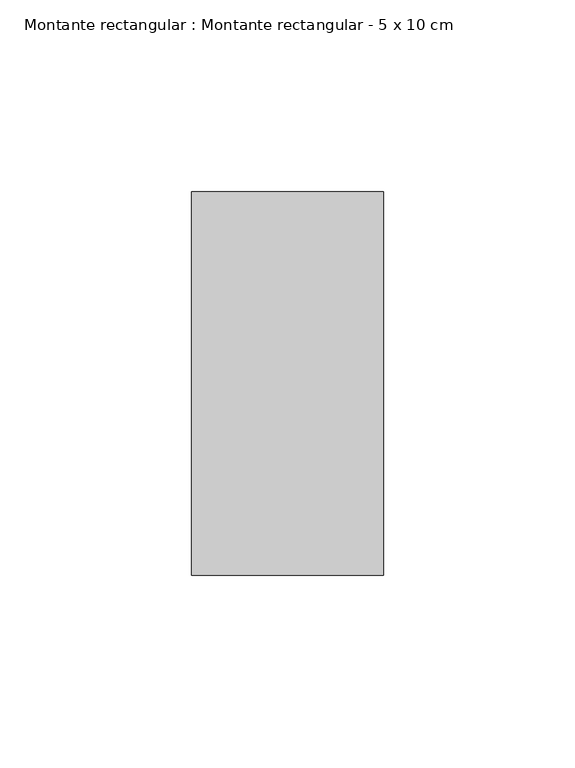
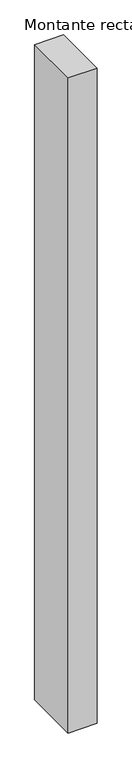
"""IFC4 building model written with IfcOpenShell, lengths in millimetres: member geometry, Montante rectangular : Montante rectangular - 5 x 10 cm."""

import ifcopenshell
import ifcopenshell.guid

model = None  # the IFC model being written
_history = None  # IfcOwnerHistory: only IFC2X3 demands one
_inside = {}  # id of a spatial element -> (the spatial element, [elements in it])
_under = {}  # id of a project, library or spatial element -> (it, [spatial elements below it])
_declared = {}  # id of a project -> (the project, [libraries it declares])
_typed = {}  # id of a type object -> (the type object, [elements of that type])
_made_of = {}  # id of a material, layer set ... -> (it, [elements and type objects made of it])


def new_model(schema):
    """Start an empty IFC model of exactly this schema.

    Asked for "IFC4X3", IfcOpenShell would pick the latest addendum, in which some entities
    have other attributes; the version numbers below select the first issue.
    IFC2X3 requires an IfcOwnerHistory on every rooted entity: one is made here for all.
    """
    global model, _history
    if schema == "IFC4X3":
        model = ifcopenshell.file(schema_version=(4, 3, 0, 0))
    else:
        model = ifcopenshell.file(schema=schema)
    _inside.clear()
    _under.clear()
    _declared.clear()
    _typed.clear()
    _made_of.clear()
    _history = None
    if model.schema == "IFC2X3":
        org = make("IfcOrganization", Name="unknown")
        user = make(
            "IfcPersonAndOrganization",
            ThePerson=make("IfcPerson", FamilyName="unknown"),
            TheOrganization=org,
        )
        app = make(
            "IfcApplication",
            ApplicationDeveloper=org,
            Version="unknown",
            ApplicationFullName="unknown",
            ApplicationIdentifier="unknown",
        )
        _history = make(
            "IfcOwnerHistory",
            OwningUser=user,
            OwningApplication=app,
            ChangeAction="ADDED",
            CreationDate=0,
        )
    return model


def make(cls, **values):
    """One entity of the class cls with the attributes given. An attribute that is None is left unset."""
    return model.create_entity(
        cls, **{name: value for name, value in values.items() if value is not None}
    )


def rooted(cls, **values):
    """An entity with a GlobalId (a new one), such as an element, a storey or a relation."""
    return make(cls, GlobalId=ifcopenshell.guid.new(), OwnerHistory=_history, **values)


def si_unit(unit_type, name, prefix=None):
    """IfcSIUnit, for example si_unit("LENGTHUNIT", "METRE", prefix="MILLI")."""
    return make("IfcSIUnit", UnitType=unit_type, Prefix=prefix, Name=name)


def assignment(units):
    """IfcUnitAssignment: the units of a project."""
    return None if units is None else make("IfcUnitAssignment", Units=units)


def point(xyz):
    """IfcCartesianPoint."""
    return None if xyz is None else make("IfcCartesianPoint", Coordinates=xyz)


def direction(xyz):
    """IfcDirection."""
    return None if xyz is None else make("IfcDirection", DirectionRatios=xyz)


def frame(location, z_axis=None, x_axis=None):
    """IfcAxis2Placement3D, a coordinate frame: its origin and axes. An axis left out is left unset."""
    return make(
        "IfcAxis2Placement3D",
        Location=point(location),
        Axis=direction(z_axis),
        RefDirection=direction(x_axis),
    )


def origin():
    """The frame at (0, 0, 0) with its axes left unset."""
    return frame((0.0, 0.0, 0.0))


def place(relative_to, where):
    """IfcLocalPlacement: puts the frame where relative to a parent placement (None: the world)."""
    return make(
        "IfcLocalPlacement", PlacementRelTo=relative_to, RelativePlacement=where
    )


def context(
    kind, dimensions, precision=None, world=None, true_north=None, identifier=None
):
    """IfcGeometricRepresentationContext, for example the 3D "Model" context."""
    return make(
        "IfcGeometricRepresentationContext",
        ContextIdentifier=identifier,
        ContextType=kind,
        CoordinateSpaceDimension=dimensions,
        Precision=precision,
        WorldCoordinateSystem=world,
        TrueNorth=true_north,
    )


def project(units=None, contexts=None):
    """IfcProject with its units and contexts."""
    return rooted(
        "IfcProject",
        Name="project",
        RepresentationContexts=contexts,
        UnitsInContext=assignment(units),
    )


def spatial(cls, under=None, at=None, **own):
    """A site, building, storey or space (cls), placed at a placement, below another one or the project."""
    s = rooted(cls, ObjectPlacement=at, **own)
    if under is not None:
        _under.setdefault(under.id(), (under, []))[1].append(s)
    return s


def polyline(points):
    """IfcPolyline through the points."""
    return make("IfcPolyline", Points=[point(p) for p in points])


def outline(outer, holes=None, kind="AREA"):
    """IfcArbitraryClosedProfileDef: a profile drawn as a closed curve; with holes, ...WithVoids."""
    if holes is None:
        return make("IfcArbitraryClosedProfileDef", ProfileType=kind, OuterCurve=outer)
    return make(
        "IfcArbitraryProfileDefWithVoids",
        ProfileType=kind,
        OuterCurve=outer,
        InnerCurves=holes,
    )


def extrude(swept, where, along, depth):
    """IfcExtrudedAreaSolid: the profile swept, set in the frame where, extruded along a direction by depth."""
    return make(
        "IfcExtrudedAreaSolid",
        SweptArea=swept,
        Position=where,
        ExtrudedDirection=direction(along),
        Depth=depth,
    )


def shape(context_of_items, identifier, shape_type, items):
    """IfcShapeRepresentation: the items that make up one representation, for example the "Body"."""
    return make(
        "IfcShapeRepresentation",
        ContextOfItems=context_of_items,
        RepresentationIdentifier=identifier,
        RepresentationType=shape_type,
        Items=items,
    )


def source(mapping_origin, context_of_items, identifier, shape_type, items):
    """IfcRepresentationMap: a shape defined once, which mapped items show again and again."""
    return make(
        "IfcRepresentationMap",
        MappingOrigin=mapping_origin,
        MappedRepresentation=shape(context_of_items, identifier, shape_type, items),
    )


def transform(
    local_origin,
    x_axis=None,
    y_axis=None,
    z_axis=None,
    scale=None,
    scale2=None,
    scale3=None,
    uniform=True,
):
    """IfcCartesianTransformationOperator3D, or its non-uniform kind. x_axis, y_axis, z_axis: its Axis1, 2, 3."""
    if uniform:
        return make(
            "IfcCartesianTransformationOperator3D",
            Axis1=direction(x_axis),
            Axis2=direction(y_axis),
            LocalOrigin=point(local_origin),
            Scale=scale,
            Axis3=direction(z_axis),
        )
    return make(
        "IfcCartesianTransformationOperator3DnonUniform",
        Axis1=direction(x_axis),
        Axis2=direction(y_axis),
        LocalOrigin=point(local_origin),
        Scale=scale,
        Axis3=direction(z_axis),
        Scale2=scale2,
        Scale3=scale3,
    )


def mapped(mapping_source, mapping_target):
    """IfcMappedItem: shows the shape of a source again, moved by a transform."""
    return make(
        "IfcMappedItem", MappingSource=mapping_source, MappingTarget=mapping_target
    )


def made_of(thing, what):
    """Note that an element or type object is made of a material, layer set ...; save() writes the relation."""
    if what is not None:
        _made_of.setdefault(what.id(), (what, []))[1].append(thing)
    return thing


def element(
    cls,
    number,
    at=None,
    inside=None,
    cuts=None,
    type_object=None,
    material=None,
    context=None,
    identifier="Body",
    shape_type=None,
    held_by="IfcProductDefinitionShape",
    body=None,
    shapes=None,
    **own,
):
    """One element of the class cls, such as IfcWall. Its Tag is "e" and its number.

    at: its placement. inside: the storey or other place that contains it. cuts: it is an
    opening in that element (IfcRelVoidsElement). A single representation is given by context,
    identifier, shape_type and body (its items); several are given by shapes. held_by: the class
    of the entity that holds the representations. save() writes the other relations.
    """
    e = rooted(cls, Tag="e%d" % number, ObjectPlacement=at, **own)
    if body is not None:
        shapes = [shape(context, identifier, shape_type, body)]
    if shapes is not None:
        e.Representation = make(held_by, Representations=shapes)
    if inside is not None:
        _inside.setdefault(inside.id(), (inside, []))[1].append(e)
    if cuts is not None:
        rooted(
            "IfcRelVoidsElement", RelatingBuildingElement=cuts, RelatedOpeningElement=e
        )
    if type_object is not None:
        _typed.setdefault(type_object.id(), (type_object, []))[1].append(e)
    return made_of(e, material)


def aggregate(whole, parts):
    """IfcRelAggregates: a whole, such as a stair, and the parts it consists of."""
    return rooted("IfcRelAggregates", RelatingObject=whole, RelatedObjects=parts)


def save(model, path):
    """Write the relations noted so far, then the file.

    IfcRelAggregates (storeys below a building ...), IfcRelContainedInSpatialStructure (elements
    in a storey), IfcRelDefinesByType, IfcRelAssociatesMaterial and IfcRelDeclares: one each for
    every whole, place, type object, material and project.
    """
    for whole, parts in _under.values():
        aggregate(whole, parts)
    for where, things in _inside.values():
        rooted(
            "IfcRelContainedInSpatialStructure",
            RelatedElements=things,
            RelatingStructure=where,
        )
    for kind, things in _typed.values():
        rooted("IfcRelDefinesByType", RelatedObjects=things, RelatingType=kind)
    for what, things in _made_of.values():
        rooted("IfcRelAssociatesMaterial", RelatedObjects=things, RelatingMaterial=what)
    for by, libraries in _declared.values():
        rooted("IfcRelDeclares", RelatingContext=by, RelatedDefinitions=libraries)
    model.write(path)


def montante_rectangular_montante_rectangular_5_x_10_cm_9f92a1f7(model_context):
    return source(origin(), model_context, "Body", "SweptSolid", [
        extrude(outline(polyline([(0.0, 50.0), (0.0, -50.0), (-50.0, -50.0), (-50.0, 50.0), (0.0, 50.0)])), frame((0.0, 0.0, -1193.3333333), z_axis=(0.0, 0.0, 1.0), x_axis=(1.0, 0.0, 0.0)), (0.0, 0.0, 1.0), 1193.3333333),
    ])


if __name__ == "__main__":
    model = new_model("IFC4")
    model_context = context("Model", 3, world=origin())
    ifc_project = project(units=[si_unit("LENGTHUNIT", "METRE", prefix="MILLI")], contexts=[model_context])
    site = spatial("IfcSite", under=ifc_project)
    building = spatial("IfcBuilding", under=site)
    placement = place(None, origin())
    montante_rectangular_montante_rectangular_5_x_10_cm_shape = montante_rectangular_montante_rectangular_5_x_10_cm_9f92a1f7(model_context)
    element("IfcMember", 1, ObjectType="Montante rectangular : Montante rectangular - 5 x 10 cm", at=placement, inside=building, context=model_context, shape_type="MappedRepresentation", body=[
        mapped(montante_rectangular_montante_rectangular_5_x_10_cm_shape, transform((0.0, 0.0, 0.0), x_axis=(1.0, 0.0, 0.0), y_axis=(0.0, 1.0, 0.0), z_axis=(0.0, 0.0, 1.0))),
    ])
    save(model, "model.ifc")
